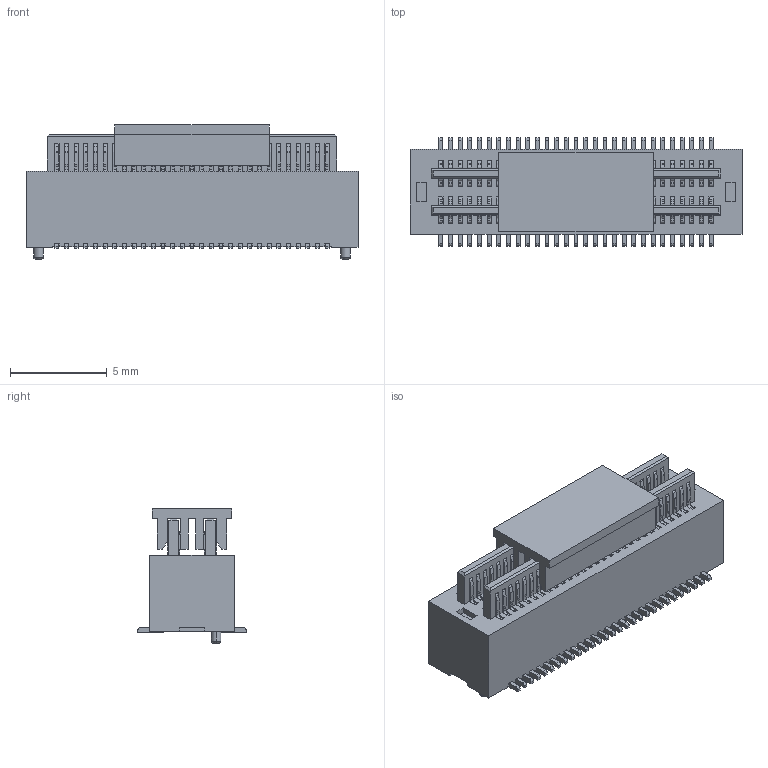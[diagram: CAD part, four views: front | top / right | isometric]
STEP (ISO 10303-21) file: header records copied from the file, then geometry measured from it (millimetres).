
FILE_DESCRIPTION(('CATIA V5 STEP Exchange'),'2;1');
FILE_NAME('F:\黄富鸿\板对板\PBB05\公座\H4.0\编带+盖\HC-PBB05-2-58-M-H4.0-G1-R-P-04（BTB0.5 双槽 公座 立贴 带柱 编带+盖）-HCTL.stp','2025-12-09T09:01:07+00:00',('none'),('none'),'CATIA Version 5 Release 20 GA (IN-10)','CATIA V5 STEP AP203','none');
FILE_SCHEMA(('CONFIG_CONTROL_DESIGN'));
Products named in the file (1): Part2
Bounding box: 17.2 x 5.6 x 6.95 mm (x, y, z)
Volume: 358.5 mm3; surface area: 2290.6 mm2
Topology: 60 solids, 60 shells, 3676 faces, 11102 edges, 7320 vertices
Faces by surface type: plane 2508, cylinder 1164, torus 4
Entity records: 105853 total; most frequent: ORIENTED_EDGE 22204, CARTESIAN_POINT 19206, DIRECTION 11856, EDGE_CURVE 11102, VECTOR 8650, LINE 8650, VERTEX_POINT 7320, EDGE_LOOP 3682
